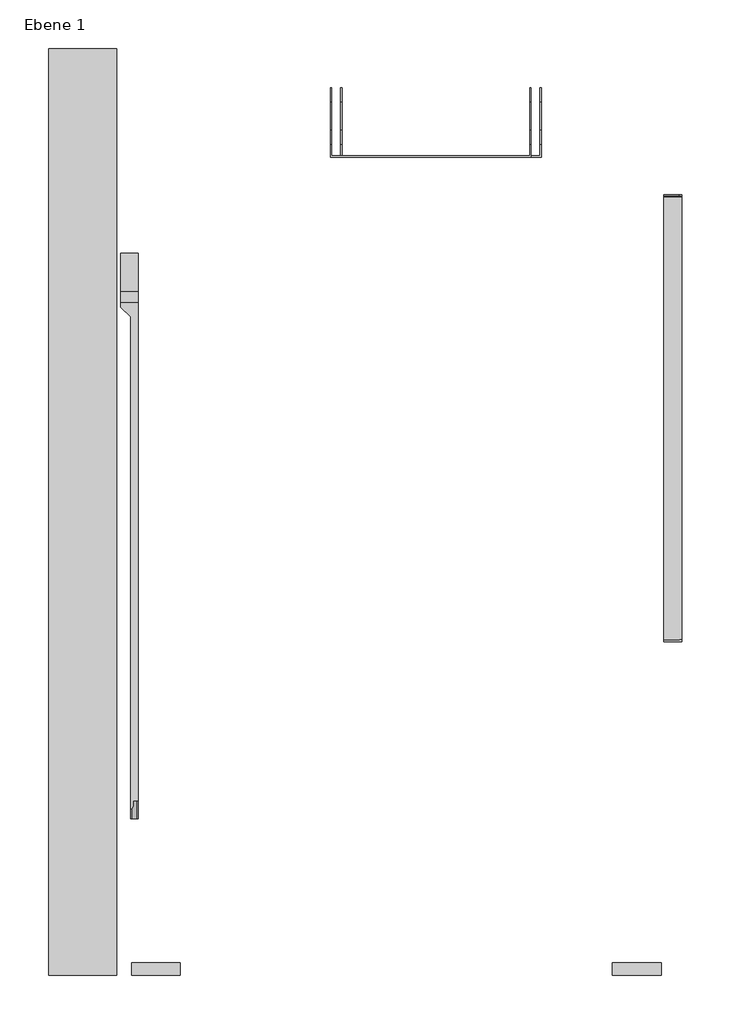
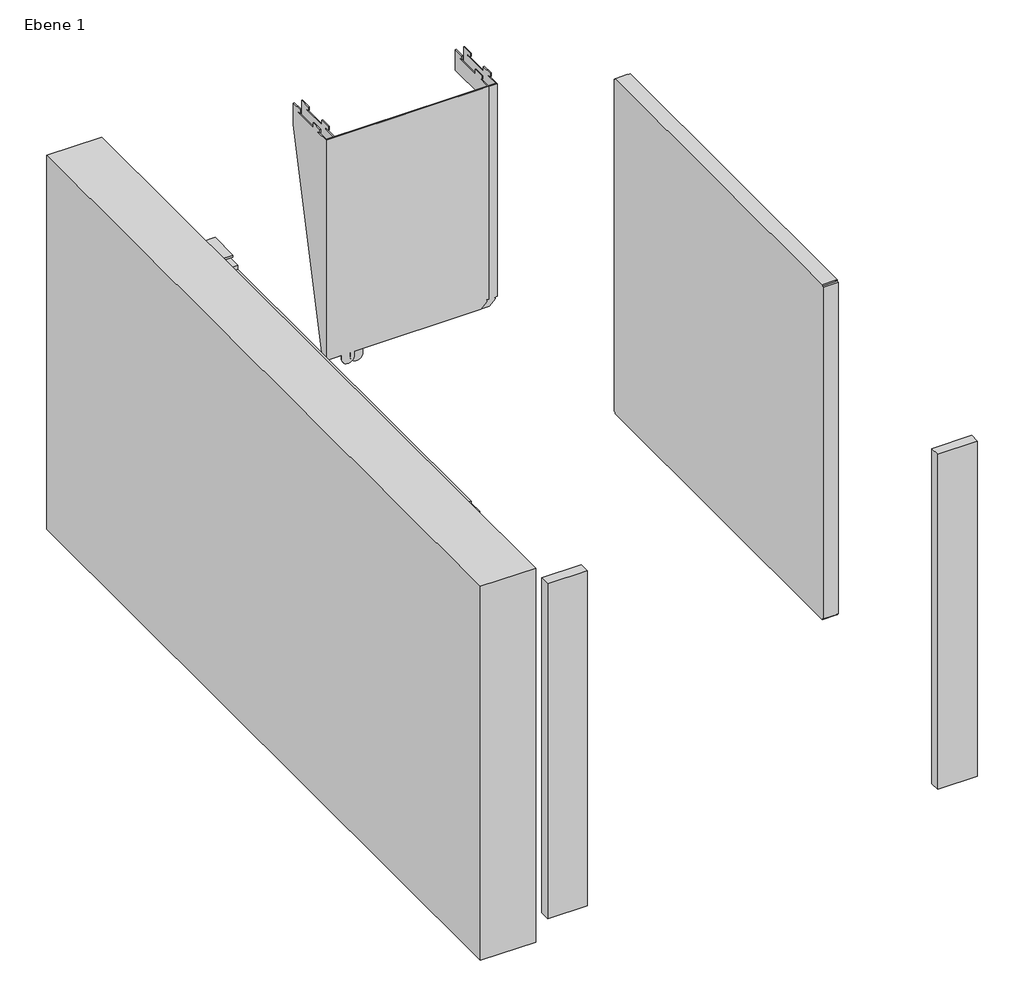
# One storey, incomplete: 6 proxies.
"""IFC4 building model written with IfcOpenShell, lengths in millimetres."""

from ifc_helpers import new_model, si_unit, origin, place, context, project, spatial, transform, mapped, element, save
from components import generic_models_6e9d71cf, generic_models_de27f77d, generic_models_fb11fd52, generic_models_8c06a8be, generic_models_ada9aacc

model = new_model("IFC4")

# Units and contexts
model_context = context("Model", 3, world=origin())
ifc_project = project(units=[si_unit("LENGTHUNIT", "METRE", prefix="MILLI")], contexts=[model_context])

# Site, building, storey
site = spatial("IfcSite", under=ifc_project)
building = spatial("IfcBuilding", under=site)
storey = spatial("IfcBuildingStorey", under=building, Name="Ebene 1", Elevation=0.0)

# Proxies
placement = place(None, origin())
generic_models_shape = generic_models_6e9d71cf(model_context)
element("IfcBuildingElementProxy", 1, Name="Installationsrahmen_70mm_2025-07-23", ObjectType="Installationsrahmen_70mm_2025-07-23", at=placement, inside=storey, context=model_context, shape_type="MappedRepresentation", body=[
    mapped(generic_models_shape, transform((-70.0, 185.0, 0.0), x_axis=(1.0, 0.0, 0.0), y_axis=(0.0, 1.0, 0.0), z_axis=(0.0, 0.0, 1.0))),
])
generic_models_2_shape = generic_models_de27f77d(model_context)
element("IfcBuildingElementProxy", 2, Name="046253_Strebe_Boden.02", ObjectType="046253_Strebe_Boden.02", at=placement, inside=storey, context=model_context, shape_type="MappedRepresentation", body=[
    mapped(generic_models_2_shape, transform((0.0, -0.6, 0.0), x_axis=(1.0, 0.0, 0.0), y_axis=(0.0, 1.0, 0.0), z_axis=(0.0, 0.0, 1.0))),
])
element("IfcBuildingElementProxy", 3, Name="046253_Strebe_Boden.003", ObjectType="046253_Strebe_Boden.003", at=placement, inside=storey, context=model_context, shape_type="MappedRepresentation", body=[
    mapped(generic_models_2_shape, transform((493.69, -0.6, 0.0), x_axis=(1.0, 0.0, 0.0), y_axis=(0.0, 1.0, 0.0), z_axis=(0.0, 0.0, 1.0))),
])
generic_models_3_shape = generic_models_fb11fd52(model_context)
element("IfcBuildingElementProxy", 4, Name="Platzhalter_Spuelkammer_Tuer_15.07.25", ObjectType="Platzhalter_Spuelkammer_Tuer_15.07.25", at=placement, inside=storey, context=model_context, shape_type="MappedRepresentation", body=[
    mapped(generic_models_3_shape, transform((580.0, 756.25, -250.0), x_axis=(0.0, 1.0, 0.0), y_axis=(-1.0, 0.0, 0.0), z_axis=(0.0, 0.0, 1.0))),
])
generic_models_4_shape = generic_models_8c06a8be(model_context)
element("IfcBuildingElementProxy", 5, Name="046289_Konsole_fuer_Powerteil", ObjectType="046289_Konsole_fuer_Powerteil", at=placement, inside=storey, context=model_context, shape_type="MappedRepresentation", body=[
    mapped(generic_models_4_shape, transform((-1.375, 0.0, 0.0), x_axis=(1.0, 0.0, 0.0), y_axis=(0.0, 1.0, 0.0), z_axis=(0.0, 0.0, 1.0))),
])
generic_models_5_shape = generic_models_ada9aacc(model_context)
element("IfcBuildingElementProxy", 6, Name="046542_Motorhalterung", ObjectType="046542_Motorhalterung", at=placement, inside=storey, context=model_context, shape_type="MappedRepresentation", body=[
    mapped(generic_models_5_shape, transform((0.0, 0.0, 0.0), x_axis=(1.0, 0.0, 0.0), y_axis=(0.0, 1.0, 0.0), z_axis=(0.0, 0.0, 1.0))),
])

save(model, "model.ifc")
